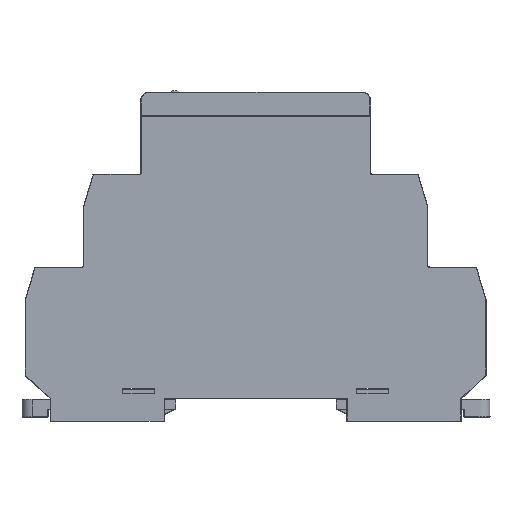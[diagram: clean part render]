
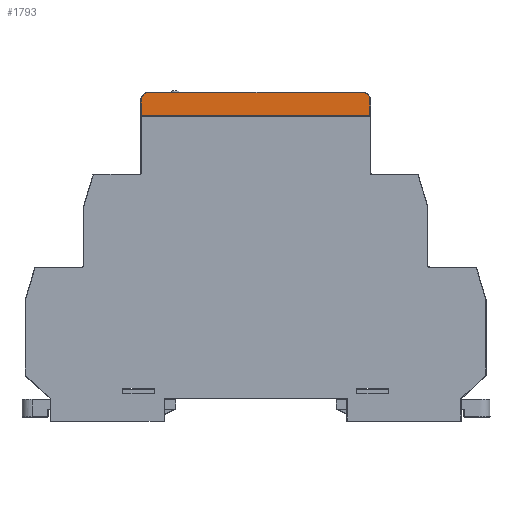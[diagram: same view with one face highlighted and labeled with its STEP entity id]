
A CAD part, left-side view. The second image highlights one B-rep face of the part: STEP entity #1793.
In plain terms, the highlighted planar face has unit normal (1, 0, 0).
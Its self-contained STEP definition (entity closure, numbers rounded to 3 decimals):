
#1793=ADVANCED_FACE('',(#3524),#27538,.T.);
#3524=FACE_OUTER_BOUND('',#5286,.T.);
#5286=EDGE_LOOP('',(#13579,#13580));
#13579=ORIENTED_EDGE('',*,*,#18353,.T.);
#13580=ORIENTED_EDGE('',*,*,#18341,.F.);
#18341=EDGE_CURVE('',#25715,#25720,#20955,.T.);
#18353=EDGE_CURVE('',#25715,#25720,#20965,.T.);
#20955=(
BOUNDED_CURVE()
B_SPLINE_CURVE(3,(#74328,#74329,#74330,#74331,#74332,#74333,#74334,#74335,
#74336,#74337,#74338,#74339,#74340,#74341,#74342,#74343,#74344,#74345,#74346,
#74347,#74348,#74349,#74350,#74351,#74352,#74353,#74354,#74355,#74356,#74357,
#74358,#74359,#74360,#74361),.UNSPECIFIED.,.F.,.F.)
B_SPLINE_CURVE_WITH_KNOTS((4,3,3,3,3,3,3,3,3,3,3,4),(0.1,
3.15,3.679,4.251,4.827,5.428,
47.128,47.656,48.229,48.804,49.405,
52.455),.UNSPECIFIED.)
CURVE()
GEOMETRIC_REPRESENTATION_ITEM()
RATIONAL_B_SPLINE_CURVE((1.,1.,1.,1.,
1.,1.,1.,1.,1.,
1.,1.,1.,1.,1.,
1.,1.,1.,1.,1.,
1.,1.,1.,1.,1.,
1.,1.,1.,1.,1.,
1.,1.,1.,1.,1.))
REPRESENTATION_ITEM('')
);
#20965=(
BOUNDED_CURVE()
B_SPLINE_CURVE(3,(#74405,#74406,#74407,#74408),.UNSPECIFIED.,.F.,.F.)
B_SPLINE_CURVE_WITH_KNOTS((4,4),(0.1,44.7),.UNSPECIFIED.)
CURVE()
GEOMETRIC_REPRESENTATION_ITEM()
RATIONAL_B_SPLINE_CURVE((1.,1.,1.,1.))
REPRESENTATION_ITEM('')
);
#25715=VERTEX_POINT('',#74203);
#25720=VERTEX_POINT('',#74208);
#27538=PLANE('',#28334);
#28334=AXIS2_PLACEMENT_3D('',#73731,#29114,$);
#29114=DIRECTION('',(1.,0.,0.));
#73731=CARTESIAN_POINT('',(-0.06,-26.772,54.77));
#74203=CARTESIAN_POINT('',(-0.06,-22.3,55.232));
#74208=CARTESIAN_POINT('',(-0.06,22.3,55.232));
#74328=CARTESIAN_POINT('',(-0.06,-22.3,55.232));
#74329=CARTESIAN_POINT('',(-0.06,-22.3,56.249));
#74330=CARTESIAN_POINT('',(-0.06,-22.3,57.265));
#74331=CARTESIAN_POINT('',(-0.06,-22.3,58.282));
#74332=CARTESIAN_POINT('',(-0.06,-22.3,58.458));
#74333=CARTESIAN_POINT('',(-0.06,-22.268,58.634));
#74334=CARTESIAN_POINT('',(-0.06,-22.205,58.799));
#74335=CARTESIAN_POINT('',(-0.06,-22.137,58.977));
#74336=CARTESIAN_POINT('',(-0.06,-22.033,59.142));
#74337=CARTESIAN_POINT('',(-0.06,-21.902,59.28));
#74338=CARTESIAN_POINT('',(-0.06,-21.769,59.42));
#74339=CARTESIAN_POINT('',(-0.06,-21.609,59.532));
#74340=CARTESIAN_POINT('',(-0.06,-21.434,59.609));
#74341=CARTESIAN_POINT('',(-0.06,-21.25,59.69));
#74342=CARTESIAN_POINT('',(-0.06,-21.05,59.732));
#74343=CARTESIAN_POINT('',(-0.06,-20.85,59.732));
#74344=CARTESIAN_POINT('',(-0.06,-6.95,59.732));
#74345=CARTESIAN_POINT('',(-0.06,6.95,59.732));
#74346=CARTESIAN_POINT('',(-0.06,20.85,59.732));
#74347=CARTESIAN_POINT('',(-0.06,21.026,59.732));
#74348=CARTESIAN_POINT('',(-0.06,21.202,59.7));
#74349=CARTESIAN_POINT('',(-0.06,21.367,59.637));
#74350=CARTESIAN_POINT('',(-0.06,21.545,59.569));
#74351=CARTESIAN_POINT('',(-0.06,21.71,59.465));
#74352=CARTESIAN_POINT('',(-0.06,21.848,59.333));
#74353=CARTESIAN_POINT('',(-0.06,21.988,59.201));
#74354=CARTESIAN_POINT('',(-0.06,22.1,59.041));
#74355=CARTESIAN_POINT('',(-0.06,22.177,58.866));
#74356=CARTESIAN_POINT('',(-0.06,22.258,58.682));
#74357=CARTESIAN_POINT('',(-0.06,22.3,58.482));
#74358=CARTESIAN_POINT('',(-0.06,22.3,58.282));
#74359=CARTESIAN_POINT('',(-0.06,22.3,57.265));
#74360=CARTESIAN_POINT('',(-0.06,22.3,56.249));
#74361=CARTESIAN_POINT('',(-0.06,22.3,55.232));
#74405=CARTESIAN_POINT('',(-0.06,-22.3,55.232));
#74406=CARTESIAN_POINT('',(-0.06,-7.433,55.232));
#74407=CARTESIAN_POINT('',(-0.06,7.433,55.232));
#74408=CARTESIAN_POINT('',(-0.06,22.3,55.232));
